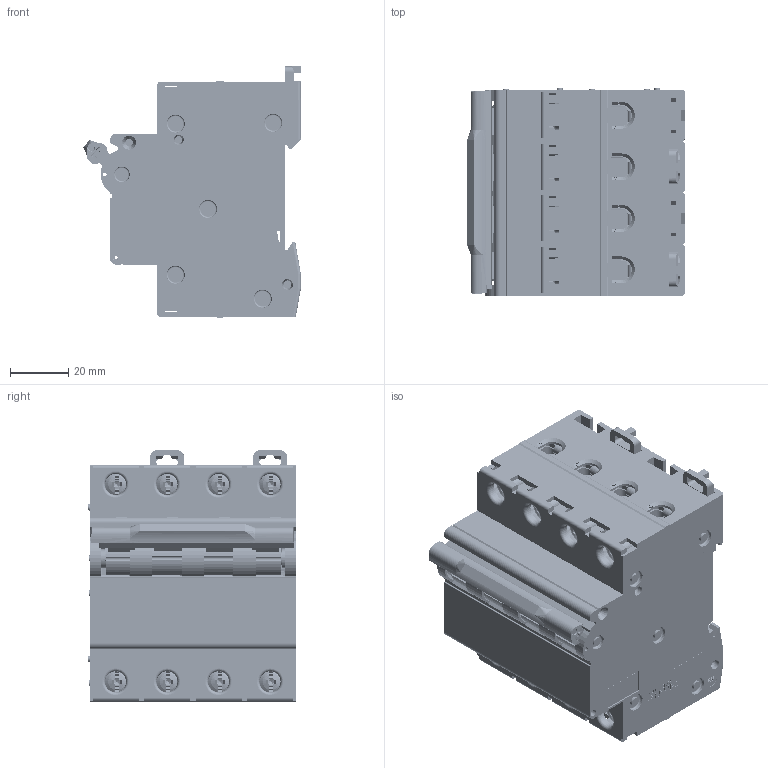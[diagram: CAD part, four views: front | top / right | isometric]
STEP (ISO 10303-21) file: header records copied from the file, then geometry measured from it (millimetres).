
FILE_DESCRIPTION((''),'2;1');
FILE_NAME('C65_4P_ASM','2018-12-16T',('SESA509781'),('Schneider-Electric'),'PRO/ENGINEER BY PARAMETRIC TECHNOLOGY CORPORATION, 2015440','PRO/ENGINEER BY PARAMETRIC TECHNOLOGY CORPORATION, 2015440','');
FILE_SCHEMA(('CONFIG_CONTROL_DESIGN'));
Products named in the file (15): 5120708500; 72583701; GHC1235600; 72431001; 4295306-00_LOCKING_CLIP; 5120708600; GHC1012000; C65_1P_BASIC_AF0_ASM; C65_1P_BASIC1_AF0_ASM; C65_1P_BASIC_AF1_ASM; C65_1P_BASIC1_AF1_ASM; GHC1028500; 72446907; 72596301; C65_4P_ASM
Assembly tree (55 placements, depth 3):
  C65_4P_ASM
    C65_1P_BASIC_AF0_ASM
      5120708500
      72583701
      GHC1235600  x2
      72431001  x2
      4295306-00_LOCKING_CLIP
      5120708600
      GHC1012000  x4
    C65_1P_BASIC1_AF0_ASM
      5120708500
      72583701
      GHC1235600  x2
      72431001  x2
      5120708600
      GHC1012000  x4
    C65_1P_BASIC_AF1_ASM
      5120708500
      72583701
      GHC1235600  x2
      72431001  x2
      4295306-00_LOCKING_CLIP
      5120708600
      GHC1012000  x4
    C65_1P_BASIC1_AF1_ASM
      5120708500
      72583701
      GHC1235600  x2
      72431001  x2
      5120708600
      GHC1012000  x4
    GHC1028500  x2
    72446907  x2
    72596301
Bounding box: 74.79 x 71.35 x 86.3 mm (x, y, z)
Volume: 141787.8 mm3; surface area: 180652.7 mm2
Topology: 51 solids, 59 shells, 17032 faces, 45624 edges, 29186 vertices
Faces by surface type: plane 11043, cylinder 3746, cone 827, torus 644, extrusion 416, bspline 224, sphere 132
Entity records: 137312 total; most frequent: CARTESIAN_POINT 32081, ORIENTED_EDGE 22486, DIRECTION 20702, EDGE_CURVE 11245, VECTOR 8344, LINE 8240, VERTEX_POINT 7212, AXIS2_PLACEMENT_3D 6179
